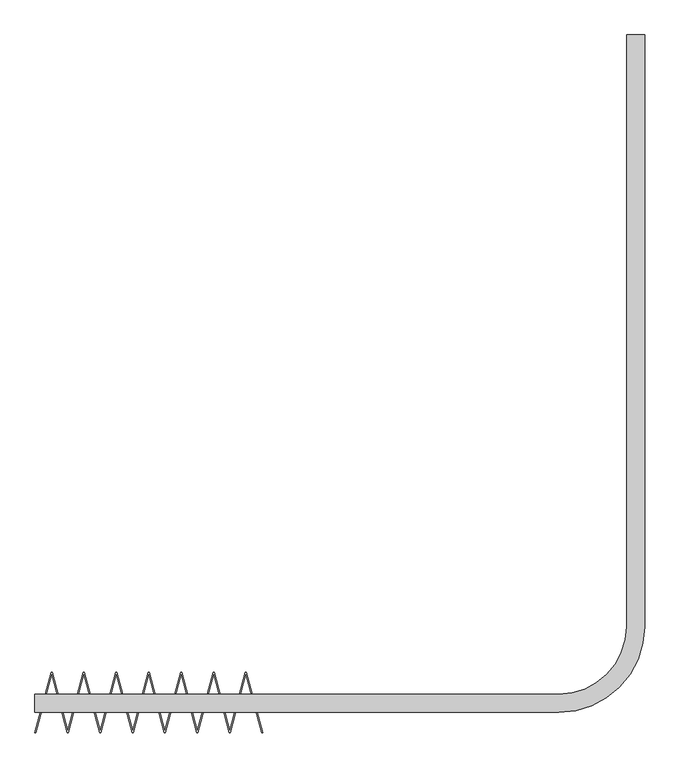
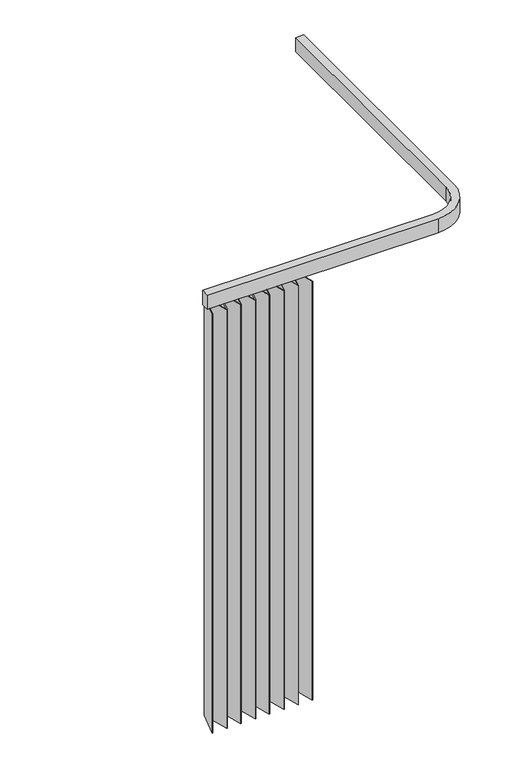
"""IFC4 building model written with IfcOpenShell, lengths in millimetres: furniture geometry, BIMHealth-Curtain_Doc_M-LOD2A-v1 : BIMHealth-Curtain_Doc_M-LOD2A-v1."""

from ifc_helpers import new_model, si_unit, point, frame, frame_2d, origin, place, context, project, spatial, polyline, circle_curve, trimmed, segment, composite_curve, outline, extrude, source, transform, mapped, element, save


def furniture_46abfedd(model_context):
    return source(origin(), model_context, "Body", "SweptSolid", [
        extrude(outline(composite_curve([segment(trimmed(circle_curve(frame_2d((1160.0, 190.0)), 150.0), [point((1160.0, 40.0))], [point((1310.0, 190.0))], True, "CARTESIAN"), True, "CONTINUOUS"), segment(polyline([(1310.0, 190.0), (1310.0, 1500.0), (1350.0, 1500.0), (1350.0, 190.0)]), True, "CONTINUOUS"), segment(trimmed(circle_curve(frame_2d((1160.0, 190.0)), 190.0), [point((1350.0, 190.0))], [point((1160.0, 0.0))], False, "CARTESIAN"), True, "CONTINUOUS"), segment(polyline([(1160.0, 0.0), (0.0, 0.0), (0.0, 40.0), (1160.0, 40.0)]), True, "CONTINUOUS")], self_intersect=False)), frame((0.0, 0.0, 2325.0), z_axis=(0.0, 0.0, 1.0), x_axis=(1.0, 0.0, 0.0)), (0.0, 0.0, 1.0), 75.0),
        extrude(outline(polyline([(35.8630189, 88.8426086), (37.9335712, 88.8426086), (72.761314, -41.1362967), (107.5890567, 88.8426086), (109.659609, 88.8426086), (144.4873517, -41.1362967), (179.3150944, 88.8426086), (181.3856468, 88.8426086), (216.2133895, -41.1362967), (251.0411322, 88.8426086), (253.1116846, 88.8426086), (287.9394273, -41.1362967), (322.76717, 88.8426086), (324.8377223, 88.8426086), (359.665465, -41.1362967), (394.4932078, 88.8426086), (396.5637601, 88.8426086), (431.3915028, -41.1362967), (466.2192455, 88.8426086), (468.2897979, 88.8426086), (504.1528168, -45.0), (502.2209651, -45.5176381), (467.2545217, 84.9789053), (432.426779, -45.0), (430.3562266, -45.0), (395.5284839, 84.9789053), (360.7007412, -45.0), (358.6301889, -45.0), (323.8024462, 84.9789053), (288.9747035, -45.0), (286.9041511, -45.0), (252.0764084, 84.9789053), (217.2486657, -45.0), (215.1781133, -45.0), (180.3503706, 84.9789053), (145.5226279, -45.0), (143.4520755, -45.0), (108.6243328, 84.9789053), (73.7965901, -45.0), (71.7260378, -45.0), (36.8982951, 84.9789053), (1.9318517, -45.5176381), (0.0, -45.0), (35.8630189, 88.8426086)])), frame((0.0, 0.0, 100.0), z_axis=(0.0, 0.0, 1.0), x_axis=(1.0, 0.0, 0.0)), (0.0, 0.0, 1.0), 2225.0),
    ])


if __name__ == "__main__":
    model = new_model("IFC4")
    model_context = context("Model", 3, world=origin())
    ifc_project = project(units=[si_unit("LENGTHUNIT", "METRE", prefix="MILLI")], contexts=[model_context])
    site = spatial("IfcSite", under=ifc_project)
    building = spatial("IfcBuilding", under=site)
    placement = place(None, origin())
    furniture_shape = furniture_46abfedd(model_context)
    element("IfcFurniture", 1, ObjectType="BIMHealth-Curtain_Doc_M-LOD2A-v1 : BIMHealth-Curtain_Doc_M-LOD2A-v1", at=placement, inside=building, context=model_context, shape_type="MappedRepresentation", body=[
        mapped(furniture_shape, transform((0.0, 0.0, 0.0), x_axis=(1.0, 0.0, 0.0), y_axis=(0.0, 1.0, 0.0), z_axis=(0.0, 0.0, 1.0))),
    ])
    save(model, "model.ifc")
